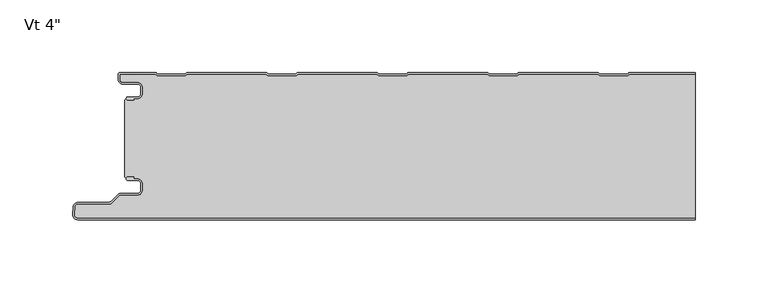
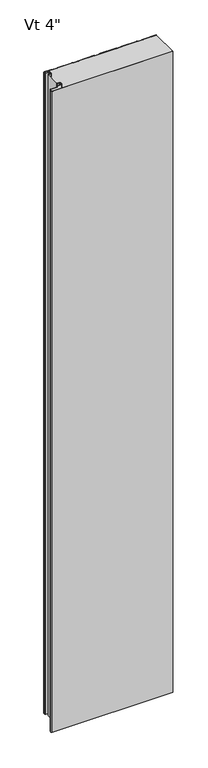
"""IFC4 building model written with IfcOpenShell, lengths in millimetres: plate geometry."""

from ifc_helpers import new_model, si_unit, point, frame, frame_2d, origin, origin_with_axes, place, context, project, spatial, polyline, circle_curve, trimmed, segment, composite_curve, outline, extrude, source, transform, mapped, element, save
from ifc_brep_helpers import plane_surface, cylinder_surface, revolved_surface, advanced_brep


def plate_2c1e21dd(model_context):
    return source(origin(), model_context, "Body", "SolidModel", [
        advanced_brep(
        [(-194.5686911, -17.001516, 2400.0), (-195.5686884, -18.0015192, 2400.0), (-194.5686911, -19.0015105, 2400.0), (-190.5684875, -19.0015105, 2400.0), (-190.5684875, -18.001516, 2400.0), (-187.8762777, -18.001516, 2400.0), (-184.576282, -14.7015203, 2400.0), (-184.576282, -10.3015291, 2400.0), (-187.8762775, -7.0015336, 2400.0), (-198.2962564, -7.0015336, 2400.0), (-200.0662506, -5.2315394, 2400.0), (-200.0662506, -0.9999917, 2400.0), (-175.565974, -0.9999917, 2400.0), (-174.1803314, -2.2002307, 2400.0), (-154.805165, -2.2002307, 2400.0), (-153.4195321, -1.0, 2400.0), (-99.3661167, -0.9999999, 2400.0), (-97.9804838, -2.2002306, 2400.0), (-78.6053174, -2.2002306, 2400.0), (-77.2196845, -0.9999999, 2400.0), (-23.1662691, -0.9999998, 2400.0), (-21.7806362, -2.2002305, 2400.0), (-2.4054698, -2.2002304, 2400.0), (-1.0198369, -0.9999997, 2400.0), (53.0335785, -0.9999996, 2400.0), (54.4192114, -2.2002303, 2400.0), (73.7943778, -2.2002303, 2400.0), (75.1800107, -0.9999996, 2400.0), (129.2334261, -0.9999995, 2400.0), (130.619059, -2.2002302, 2400.0), (149.9942254, -2.2002302, 2400.0), (151.3798583, -0.9999995, 2400.0), (196.5999997, -0.9999994, 2400.0), (196.5999997, 6e-07, 2400.0), (151.5290095, 5e-07, 2400.0), (150.6123926, -0.341788, 2400.0), (149.6213449, -1.2002302, 2400.0), (130.9919395, -1.2002302, 2400.0), (130.0008918, -0.341788, 2400.0), (129.0842749, 5e-07, 2400.0), (75.3291619, 4e-07, 2400.0), (74.412545, -0.3417881, 2400.0), (73.4214973, -1.2002303, 2400.0), (54.7920919, -1.2002303, 2400.0), (53.8010442, -0.3417881, 2400.0), (52.8844273, 4e-07, 2400.0), (-0.8706857, 3e-07, 2400.0), (-1.7873026, -0.3417882, 2400.0), (-2.7783503, -1.2002304, 2400.0), (-21.4077557, -1.2002305, 2400.0), (-22.3988034, -0.3417883, 2400.0), (-23.3154203, 2e-07, 2400.0), (-77.0705333, 1e-07, 2400.0), (-77.9871502, -0.3417884, 2400.0), (-78.9781979, -1.2002306, 2400.0), (-97.6076033, -1.2002306, 2400.0), (-98.598651, -0.3417884, 2400.0), (-99.5152679, 1e-07, 2400.0), (-153.2703809, 0.0, 2400.0), (-154.1869978, -0.3417885, 2400.0), (-155.1780455, -1.2002307, 2400.0), (-173.8074509, -1.2002307, 2400.0), (-174.7984986, -0.3417885, 2400.0), (-175.7152068, 0.0, 2400.0), (-199.6662544, 8.3e-06, 2400.0), (-201.0662506, -1.3999879, 2400.0), (-201.0662506, -5.2315394, 2400.0), (-198.2962564, -8.0015336, 2400.0), (-187.8762775, -8.0015336, 2400.0), (-185.576282, -10.3015291, 2400.0), (-185.576282, -14.7015203, 2400.0), (-187.8762777, -17.001516, 2400.0), (-194.5686911, -17.001516, 0.0), (-187.8762777, -17.001516, 0.0), (-185.576282, -14.7015203, 0.0), (-185.576282, -10.3015291, 0.0), (-187.8762775, -8.0015336, 0.0), (-198.2962564, -8.0015336, 0.0), (-201.0662506, -5.2315394, 0.0), (-201.0662506, -1.3999879, 0.0), (-199.6662544, 8.3e-06, 0.0), (-175.7151155, 8.3e-06, 0.0), (-174.7984986, -0.3417885, 0.0), (-173.8074509, -1.2002307, 0.0), (-155.1780455, -1.2002307, 0.0), (-154.1869978, -0.3417885, 0.0), (-153.2703809, 0.0, 0.0), (-99.5152679, 1e-07, 0.0), (-98.598651, -0.3417884, 0.0), (-97.6076033, -1.2002306, 0.0), (-78.9781979, -1.2002306, 0.0), (-77.9871502, -0.3417884, 0.0), (-77.0705333, 1e-07, 0.0), (-23.3154203, 2e-07, 0.0), (-22.3988034, -0.3417883, 0.0), (-21.4077557, -1.2002305, 0.0), (-2.7783503, -1.2002304, 0.0), (-1.7873026, -0.3417882, 0.0), (-0.8706857, 3e-07, 0.0), (52.8844273, 4e-07, 0.0), (53.8010442, -0.3417881, 0.0), (54.7920919, -1.2002303, 0.0), (73.4214973, -1.2002303, 0.0), (74.412545, -0.3417881, 0.0), (75.3291619, 4e-07, 0.0), (129.0842749, 5e-07, 0.0), (130.0008918, -0.341788, 0.0), (130.9919395, -1.2002302, 0.0), (149.6213449, -1.2002302, 0.0), (150.6123926, -0.341788, 0.0), (151.5290095, 5e-07, 0.0), (196.5999997, 6e-07, 0.0), (196.5999997, -0.9999994, 0.0), (151.3798583, -0.9999995, 0.0), (149.9942254, -2.2002302, 0.0), (130.619059, -2.2002302, 0.0), (129.2334261, -0.9999995, 0.0), (75.1800107, -0.9999996, 0.0), (73.7943778, -2.2002303, 0.0), (54.4192114, -2.2002303, 0.0), (53.0335785, -0.9999996, 0.0), (-1.0198369, -0.9999997, 0.0), (-2.4054698, -2.2002304, 0.0), (-21.7806362, -2.2002305, 0.0), (-23.1662691, -0.9999998, 0.0), (-77.2196845, -0.9999999, 0.0), (-78.6053174, -2.2002306, 0.0), (-97.9804838, -2.2002306, 0.0), (-99.3661167, -0.9999999, 0.0), (-153.4195321, -1.0, 0.0), (-154.805165, -2.2002307, 0.0), (-174.1803314, -2.2002307, 0.0), (-175.565974, -0.9999917, 0.0), (-200.0662506, -0.9999917, 0.0), (-200.0662506, -5.2315394, 0.0), (-198.2962564, -7.0015336, 0.0), (-187.8762775, -7.0015336, 0.0), (-184.576282, -10.3015291, 0.0), (-184.576282, -14.7015203, 0.0), (-187.8762777, -18.001516, 0.0), (-190.5684875, -18.001516, 0.0), (-190.5684875, -19.0015105, 0.0), (-194.5686911, -19.0015105, 0.0), (-195.5686883, -18.0015193, 0.0)],
        [
            (0, 1, circle_curve(frame((-194.5686911, -18.0015133, 2400.0), z_axis=(0.0, 0.0, 1.0), x_axis=(1.0, 1.7886125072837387e-09, 0.0)), 0.9999973)),
            (1, 2, circle_curve(frame((-194.5686911, -18.0015133, 2400.0), z_axis=(0.0, 0.0, 1.0), x_axis=(1.0, 1.7886125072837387e-09, 0.0)), 0.9999972)),
            (2, 3),
            (3, 4),
            (4, 5),
            (5, 6, circle_curve(frame((-187.8762777, -14.7015203, 2400.0), z_axis=(0.0, 0.0, 1.0), x_axis=(1.0, 1.7886125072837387e-09, 0.0)), 3.2999957)),
            (6, 7),
            (7, 8, circle_curve(frame((-187.8762775, -10.3015291, 2400.0), z_axis=(0.0, 0.0, 1.0), x_axis=(1.0, 1.7886125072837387e-09, 0.0)), 3.2999955)),
            (8, 9),
            (9, 10, circle_curve(frame((-198.2962564, -5.2315394, 2400.0), z_axis=(0.0, 0.0, -1.0), x_axis=(1.0, 1.7886125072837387e-09, 0.0)), 1.7699942)),
            (10, 11),
            (11, 12),
            (12, 13),
            (13, 14),
            (14, 15),
            (15, 16),
            (16, 17),
            (17, 18),
            (18, 19),
            (19, 20),
            (20, 21),
            (21, 22),
            (22, 23),
            (23, 24),
            (24, 25),
            (25, 26),
            (26, 27),
            (27, 28),
            (28, 29),
            (29, 30),
            (30, 31),
            (31, 32),
            (32, 33),
            (33, 34),
            (34, 35, circle_curve(frame((151.5290095, -1.3999967, 2400.0), z_axis=(0.0, 0.0, 1.0), x_axis=(1.0, 1.7886125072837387e-09, 0.0)), 1.3999972)),
            (35, 36),
            (36, 37),
            (37, 38),
            (38, 39, circle_curve(frame((129.084275, -1.3999967, 2400.0), z_axis=(0.0, 0.0, 1.0), x_axis=(1.0, 1.7886125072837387e-09, 0.0)), 1.3999972)),
            (39, 40),
            (40, 41, circle_curve(frame((75.3291619, -1.3999968, 2400.0), z_axis=(0.0, 0.0, 1.0), x_axis=(1.0, 1.7886125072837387e-09, 0.0)), 1.3999972)),
            (41, 42),
            (42, 43),
            (43, 44),
            (44, 45, circle_curve(frame((52.8844274, -1.3999968, 2400.0), z_axis=(0.0, 0.0, 1.0), x_axis=(1.0, 1.7886125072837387e-09, 0.0)), 1.3999972)),
            (45, 46),
            (46, 47, circle_curve(frame((-0.8706857, -1.3999969, 2400.0), z_axis=(0.0, 0.0, 1.0), x_axis=(1.0, 1.7886125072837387e-09, 0.0)), 1.3999972)),
            (47, 48),
            (48, 49),
            (49, 50),
            (50, 51, circle_curve(frame((-23.3154202, -1.399997, 2400.0), z_axis=(0.0, 0.0, 1.0), x_axis=(1.0, 1.7886125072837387e-09, 0.0)), 1.3999972)),
            (51, 52),
            (52, 53, circle_curve(frame((-77.0705333, -1.3999971, 2400.0), z_axis=(0.0, 0.0, 1.0), x_axis=(1.0, 1.7886125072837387e-09, 0.0)), 1.3999972)),
            (53, 54),
            (54, 55),
            (55, 56),
            (56, 57, circle_curve(frame((-99.5152678, -1.3999971, 2400.0), z_axis=(0.0, 0.0, 1.0), x_axis=(1.0, 1.7886125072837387e-09, 0.0)), 1.3999972)),
            (57, 58),
            (58, 59, circle_curve(frame((-153.2703809, -1.3999972, 2400.0), z_axis=(0.0, 0.0, 1.0), x_axis=(1.0, 1.7886125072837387e-09, 0.0)), 1.3999972)),
            (59, 60),
            (60, 61),
            (61, 62),
            (62, 63, circle_curve(frame((-175.7151154, -1.3999972, 2400.0), z_axis=(0.0, 0.0, 1.0), x_axis=(1.0, 1.7886125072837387e-09, 0.0)), 1.3999972)),
            (63, 64),
            (64, 65, circle_curve(frame((-199.6662544, -1.3999879, 2400.0), z_axis=(0.0, 0.0, 1.0), x_axis=(1.0, 1.7886125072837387e-09, 0.0)), 1.3999962)),
            (65, 66),
            (66, 67, circle_curve(frame((-198.2962564, -5.2315394, 2400.0), z_axis=(0.0, 0.0, 1.0), x_axis=(1.0, 1.7886125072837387e-09, 0.0)), 2.7699942)),
            (67, 68),
            (68, 69, circle_curve(frame((-187.8762775, -10.3015291, 2400.0), z_axis=(0.0, 0.0, -1.0), x_axis=(1.0, 1.7886125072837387e-09, 0.0)), 2.2999955)),
            (69, 70),
            (70, 71, circle_curve(frame((-187.8762777, -14.7015203, 2400.0), z_axis=(0.0, 0.0, -1.0), x_axis=(1.0, 1.7886125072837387e-09, 0.0)), 2.2999957)),
            (71, 0),
            (72, 73),
            (73, 74, circle_curve(frame((-187.8762777, -14.7015203, 0.0), z_axis=(0.0, 0.0, 1.0), x_axis=(1.0, 1.7886125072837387e-09, 0.0)), 2.2999957)),
            (74, 75),
            (75, 76, circle_curve(frame((-187.8762775, -10.3015291, 0.0), z_axis=(0.0, 0.0, 1.0), x_axis=(1.0, 1.7886125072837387e-09, 0.0)), 2.2999955)),
            (76, 77),
            (77, 78, circle_curve(frame((-198.2962564, -5.2315394, 0.0), z_axis=(0.0, 0.0, -1.0), x_axis=(1.0, 1.7886125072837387e-09, 0.0)), 2.7699942)),
            (78, 79),
            (79, 80, circle_curve(frame((-199.6662544, -1.3999879, 0.0), z_axis=(0.0, 0.0, -1.0), x_axis=(1.0, 1.7886125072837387e-09, 0.0)), 1.3999962)),
            (80, 81),
            (81, 82, circle_curve(frame((-175.7151154, -1.3999972, 0.0), z_axis=(0.0, 0.0, -1.0), x_axis=(1.0, 1.7886125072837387e-09, 0.0)), 1.3999972)),
            (82, 83),
            (83, 84),
            (84, 85),
            (85, 86, circle_curve(frame((-153.2703809, -1.3999972, 0.0), z_axis=(0.0, 0.0, -1.0), x_axis=(1.0, 1.7886125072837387e-09, 0.0)), 1.3999972)),
            (86, 87),
            (87, 88, circle_curve(frame((-99.5152678, -1.3999971, 0.0), z_axis=(0.0, 0.0, -1.0), x_axis=(1.0, 1.7886125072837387e-09, 0.0)), 1.3999972)),
            (88, 89),
            (89, 90),
            (90, 91),
            (91, 92, circle_curve(frame((-77.0705333, -1.3999971, 0.0), z_axis=(0.0, 0.0, -1.0), x_axis=(1.0, 1.7886125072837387e-09, 0.0)), 1.3999972)),
            (92, 93),
            (93, 94, circle_curve(frame((-23.3154202, -1.399997, 0.0), z_axis=(0.0, 0.0, -1.0), x_axis=(1.0, 1.7886125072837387e-09, 0.0)), 1.3999972)),
            (94, 95),
            (95, 96),
            (96, 97),
            (97, 98, circle_curve(frame((-0.8706857, -1.3999969, 0.0), z_axis=(0.0, 0.0, -1.0), x_axis=(1.0, 1.7886125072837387e-09, 0.0)), 1.3999972)),
            (98, 99),
            (99, 100, circle_curve(frame((52.8844274, -1.3999968, 0.0), z_axis=(0.0, 0.0, -1.0), x_axis=(1.0, 1.7886125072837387e-09, 0.0)), 1.3999972)),
            (100, 101),
            (101, 102),
            (102, 103),
            (103, 104, circle_curve(frame((75.3291619, -1.3999968, 0.0), z_axis=(0.0, 0.0, -1.0), x_axis=(1.0, 1.7886125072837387e-09, 0.0)), 1.3999972)),
            (104, 105),
            (105, 106, circle_curve(frame((129.084275, -1.3999967, 0.0), z_axis=(0.0, 0.0, -1.0), x_axis=(1.0, 1.7886125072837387e-09, 0.0)), 1.3999972)),
            (106, 107),
            (107, 108),
            (108, 109),
            (109, 110, circle_curve(frame((151.5290095, -1.3999967, 0.0), z_axis=(0.0, 0.0, -1.0), x_axis=(1.0, 1.7886125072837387e-09, 0.0)), 1.3999972)),
            (110, 111),
            (111, 112),
            (112, 113),
            (113, 114),
            (114, 115),
            (115, 116),
            (116, 117),
            (117, 118),
            (118, 119),
            (119, 120),
            (120, 121),
            (121, 122),
            (122, 123),
            (123, 124),
            (124, 125),
            (125, 126),
            (126, 127),
            (127, 128),
            (128, 129),
            (129, 130),
            (130, 131),
            (131, 132),
            (132, 133),
            (133, 134),
            (134, 135, circle_curve(frame((-198.2962564, -5.2315394, 0.0), z_axis=(0.0, 0.0, 1.0), x_axis=(1.0, 1.7886125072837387e-09, 0.0)), 1.7699942)),
            (135, 136),
            (136, 137, circle_curve(frame((-187.8762775, -10.3015291, 0.0), z_axis=(0.0, 0.0, -1.0), x_axis=(1.0, 1.7886125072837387e-09, 0.0)), 3.2999955)),
            (137, 138),
            (138, 139, circle_curve(frame((-187.8762777, -14.7015203, 0.0), z_axis=(0.0, 0.0, -1.0), x_axis=(1.0, 1.7886125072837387e-09, 0.0)), 3.2999957)),
            (139, 140),
            (140, 141),
            (141, 142),
            (142, 143, circle_curve(frame((-194.5686911, -18.0015133, 0.0), z_axis=(0.0, 0.0, -1.0), x_axis=(1.0, 1.7886125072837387e-09, 0.0)), 0.9999972)),
            (143, 72, circle_curve(frame((-194.5686911, -18.0015133, 0.0), z_axis=(0.0, 0.0, -1.0), x_axis=(1.0, 1.7886125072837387e-09, 0.0)), 0.9999973)),
            (32, 112),
            (111, 33),
            (71, 73),
            (72, 0),
            (70, 74),
            (69, 75),
            (68, 76),
            (67, 77),
            (66, 78),
            (65, 79),
            (64, 80),
            (63, 81),
            (62, 82),
            (61, 83),
            (60, 84),
            (59, 85),
            (58, 86),
            (57, 87),
            (56, 88),
            (55, 89),
            (54, 90),
            (53, 91),
            (52, 92),
            (51, 93),
            (50, 94),
            (49, 95),
            (48, 96),
            (47, 97),
            (46, 98),
            (45, 99),
            (44, 100),
            (43, 101),
            (42, 102),
            (41, 103),
            (40, 104),
            (39, 105),
            (38, 106),
            (37, 107),
            (36, 108),
            (35, 109),
            (34, 110),
            (31, 113),
            (30, 114),
            (29, 115),
            (28, 116),
            (27, 117),
            (26, 118),
            (25, 119),
            (24, 120),
            (23, 121),
            (22, 122),
            (21, 123),
            (20, 124),
            (19, 125),
            (18, 126),
            (17, 127),
            (16, 128),
            (15, 129),
            (14, 130),
            (13, 131),
            (12, 132),
            (11, 133),
            (10, 134),
            (9, 135),
            (8, 136),
            (7, 137),
            (6, 138),
            (5, 139),
            (4, 140),
            (3, 141),
            (2, 142),
            (1, 143),
        ],
        [
            plane_surface(frame((336.8, 9e-07, 2400.0), z_axis=(0.0, 0.0, 1.0), x_axis=(-1.7886125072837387e-09, 1.0, 0.0))),
            plane_surface(frame((336.8, 9e-07, 0.0), z_axis=(0.0, 0.0, -1.0), x_axis=(-1.7886125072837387e-09, 1.0, 0.0))),
            plane_surface(frame((196.5999999, -111.5999994, 2400.0), z_axis=(1.0, 1.7886125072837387e-09, 0.0), x_axis=(0.0, 0.0, -1.0))),
            plane_surface(frame((-194.5686911, -17.001516, 2400.0), z_axis=(-1.7886125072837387e-09, 1.0, 0.0), x_axis=(0.0, 0.0, -1.0))),
            revolved_surface(polyline([(-185.576282, -14.7015202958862, 0.0), (-185.576282, -14.7015202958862, 2400.0)]), (-187.8762777, -14.7015203, 2400.0), (0.0, 0.0, -1.0)),
            plane_surface(frame((-185.576282, -14.7015203, 2400.0), z_axis=(-1.0, -1.7886125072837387e-09, 0.0), x_axis=(0.0, 0.0, -1.0))),
            revolved_surface(polyline([(-185.576282, -10.301529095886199, 0.0), (-185.576282, -10.301529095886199, 2400.0)]), (-187.8762775, -10.3015291, 2400.0), (0.0, 0.0, -1.0)),
            plane_surface(frame((-187.8762775, -8.0015336, 2400.0), z_axis=(1.7886125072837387e-09, -1.0, 0.0), x_axis=(0.0, 0.0, -1.0))),
            cylinder_surface(frame((-198.2962564, -5.2315394, 2400.0), z_axis=(0.0, 0.0, 1.0), x_axis=(1.0, 1.7886125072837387e-09, 0.0)), 2.7699942),
            plane_surface(frame((-201.0662506, -5.2315394, 2400.0), z_axis=(-1.0, -1.7886125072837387e-09, 0.0), x_axis=(0.0, 0.0, -1.0))),
            cylinder_surface(frame((-199.6662544, -1.3999879, 2400.0), z_axis=(0.0, 0.0, 1.0), x_axis=(1.0, 1.7886125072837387e-09, 0.0)), 1.3999962),
            plane_surface(frame((-199.6662544, 8.3e-06, 2400.0), z_axis=(-1.7886125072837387e-09, 1.0, 0.0), x_axis=(0.0, 0.0, -1.0))),
            cylinder_surface(frame((-175.7151154, -1.3999972, 2400.0), z_axis=(0.0, 0.0, 1.0), x_axis=(1.0, 1.7886125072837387e-09, 0.0)), 1.3999972),
            plane_surface(frame((-174.7984986, -0.3417885, 2400.0), z_axis=(0.6547276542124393, 0.755864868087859, 0.0), x_axis=(0.0, 0.0, -1.0))),
            plane_surface(frame((-164.4927482, -1.2002307, 2400.0), z_axis=(-1.7886125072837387e-09, 1.0, 0.0), x_axis=(0.0, 0.0, -1.0))),
            plane_surface(frame((-155.1780455, -1.2002307, 2400.0), z_axis=(-0.6547276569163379, 0.755864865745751, 0.0), x_axis=(0.0, 0.0, -1.0))),
            cylinder_surface(frame((-153.2703809, -1.3999972, 2400.0), z_axis=(0.0, 0.0, 1.0), x_axis=(1.0, 1.7886125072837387e-09, 0.0)), 1.3999972),
            plane_surface(frame((-153.2703809, 0.0, 2400.0), z_axis=(-1.7886074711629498e-09, 1.0, 0.0), x_axis=(0.0, 0.0, -1.0))),
            cylinder_surface(frame((-99.5152678, -1.3999971, 2400.0), z_axis=(0.0, 0.0, 1.0), x_axis=(1.0, 1.7886125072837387e-09, 0.0)), 1.3999972),
            plane_surface(frame((-98.598651, -0.3417884, 2400.0), z_axis=(0.6547276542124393, 0.755864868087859, 0.0), x_axis=(0.0, 0.0, -1.0))),
            plane_surface(frame((-88.2929006, -1.2002306, 2400.0), z_axis=(-1.7886125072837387e-09, 1.0, 0.0), x_axis=(0.0, 0.0, -1.0))),
            plane_surface(frame((-78.9781979, -1.2002306, 2400.0), z_axis=(-0.6547276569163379, 0.755864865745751, 0.0), x_axis=(0.0, 0.0, -1.0))),
            cylinder_surface(frame((-77.0705333, -1.3999971, 2400.0), z_axis=(0.0, 0.0, 1.0), x_axis=(1.0, 1.7886125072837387e-09, 0.0)), 1.3999972),
            plane_surface(frame((-77.0705333, 1e-07, 2400.0), z_axis=(-1.7886074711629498e-09, 1.0, 0.0), x_axis=(0.0, 0.0, -1.0))),
            cylinder_surface(frame((-23.3154202, -1.399997, 2400.0), z_axis=(0.0, 0.0, 1.0), x_axis=(1.0, 1.7886125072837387e-09, 0.0)), 1.3999972),
            plane_surface(frame((-22.3988034, -0.3417883, 2400.0), z_axis=(0.6547276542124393, 0.755864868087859, 0.0), x_axis=(0.0, 0.0, -1.0))),
            plane_surface(frame((-12.093053, -1.2002305, 2400.0), z_axis=(-1.7886125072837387e-09, 1.0, 0.0), x_axis=(0.0, 0.0, -1.0))),
            plane_surface(frame((-2.7783503, -1.2002304, 2400.0), z_axis=(-0.6547276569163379, 0.755864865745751, 0.0), x_axis=(0.0, 0.0, -1.0))),
            cylinder_surface(frame((-0.8706857, -1.3999969, 2400.0), z_axis=(0.0, 0.0, 1.0), x_axis=(1.0, 1.7886125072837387e-09, 0.0)), 1.3999972),
            plane_surface(frame((-0.8706857, 3e-07, 2400.0), z_axis=(-1.7886074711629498e-09, 1.0, 0.0), x_axis=(0.0, 0.0, -1.0))),
            cylinder_surface(frame((52.8844274, -1.3999968, 2400.0), z_axis=(0.0, 0.0, 1.0), x_axis=(1.0, 1.7886125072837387e-09, 0.0)), 1.3999972),
            plane_surface(frame((53.8010442, -0.3417881, 2400.0), z_axis=(0.6547276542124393, 0.755864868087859, 0.0), x_axis=(0.0, 0.0, -1.0))),
            plane_surface(frame((64.1067946, -1.2002303, 2400.0), z_axis=(-1.7886125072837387e-09, 1.0, 0.0), x_axis=(0.0, 0.0, -1.0))),
            plane_surface(frame((73.4214973, -1.2002303, 2400.0), z_axis=(-0.6547276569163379, 0.755864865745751, 0.0), x_axis=(0.0, 0.0, -1.0))),
            cylinder_surface(frame((75.3291619, -1.3999968, 2400.0), z_axis=(0.0, 0.0, 1.0), x_axis=(1.0, 1.7886125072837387e-09, 0.0)), 1.3999972),
            plane_surface(frame((75.3291619, 4e-07, 2400.0), z_axis=(-1.7886074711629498e-09, 1.0, 0.0), x_axis=(0.0, 0.0, -1.0))),
            cylinder_surface(frame((129.084275, -1.3999967, 2400.0), z_axis=(0.0, 0.0, 1.0), x_axis=(1.0, 1.7886125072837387e-09, 0.0)), 1.3999972),
            plane_surface(frame((130.0008918, -0.341788, 2400.0), z_axis=(0.6547276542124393, 0.755864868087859, 0.0), x_axis=(0.0, 0.0, -1.0))),
            plane_surface(frame((140.3066422, -1.2002302, 2400.0), z_axis=(-1.7886125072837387e-09, 1.0, 0.0), x_axis=(0.0, 0.0, -1.0))),
            plane_surface(frame((149.6213449, -1.2002302, 2400.0), z_axis=(-0.6547276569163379, 0.755864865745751, 0.0), x_axis=(0.0, 0.0, -1.0))),
            cylinder_surface(frame((151.5290095, -1.3999967, 2400.0), z_axis=(0.0, 0.0, 1.0), x_axis=(1.0, 1.7886125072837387e-09, 0.0)), 1.3999972),
            plane_surface(frame((151.5290095, 5e-07, 2400.0), z_axis=(-1.7886074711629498e-09, 1.0, 0.0), x_axis=(0.0, 0.0, -1.0))),
            plane_surface(frame((205.4332737, -0.9999994, 2400.0), z_axis=(1.7886074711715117e-09, -1.0, 0.0), x_axis=(0.0, 0.0, -1.0))),
            plane_surface(frame((151.3798583, -0.9999995, 2400.0), z_axis=(0.6547276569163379, -0.755864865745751, 0.0), x_axis=(0.0, 0.0, -1.0))),
            plane_surface(frame((149.9942254, -2.2002302, 2400.0), z_axis=(1.7886125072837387e-09, -1.0, 0.0), x_axis=(0.0, 0.0, -1.0))),
            plane_surface(frame((130.619059, -2.2002302, 2400.0), z_axis=(-0.6547276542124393, -0.755864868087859, 0.0), x_axis=(0.0, 0.0, -1.0))),
            plane_surface(frame((129.2334261, -0.9999995, 2400.0), z_axis=(1.7886074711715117e-09, -1.0, 0.0), x_axis=(0.0, 0.0, -1.0))),
            plane_surface(frame((75.1800107, -0.9999996, 2400.0), z_axis=(0.6547276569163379, -0.755864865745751, 0.0), x_axis=(0.0, 0.0, -1.0))),
            plane_surface(frame((73.7943778, -2.2002303, 2400.0), z_axis=(1.7886125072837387e-09, -1.0, 0.0), x_axis=(0.0, 0.0, -1.0))),
            plane_surface(frame((54.4192114, -2.2002303, 2400.0), z_axis=(-0.6547276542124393, -0.755864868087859, 0.0), x_axis=(0.0, 0.0, -1.0))),
            plane_surface(frame((53.0335785, -0.9999996, 2400.0), z_axis=(1.7886074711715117e-09, -1.0, 0.0), x_axis=(0.0, 0.0, -1.0))),
            plane_surface(frame((-1.0198369, -0.9999997, 2400.0), z_axis=(0.6547276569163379, -0.755864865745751, 0.0), x_axis=(0.0, 0.0, -1.0))),
            plane_surface(frame((-2.4054698, -2.2002304, 2400.0), z_axis=(1.7886125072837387e-09, -1.0, 0.0), x_axis=(0.0, 0.0, -1.0))),
            plane_surface(frame((-21.7806362, -2.2002305, 2400.0), z_axis=(-0.6547276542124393, -0.755864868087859, 0.0), x_axis=(0.0, 0.0, -1.0))),
            plane_surface(frame((-23.1662691, -0.9999998, 2400.0), z_axis=(1.7886074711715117e-09, -1.0, 0.0), x_axis=(0.0, 0.0, -1.0))),
            plane_surface(frame((-77.2196845, -0.9999999, 2400.0), z_axis=(0.6547276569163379, -0.755864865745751, 0.0), x_axis=(0.0, 0.0, -1.0))),
            plane_surface(frame((-78.6053174, -2.2002306, 2400.0), z_axis=(1.7886125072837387e-09, -1.0, 0.0), x_axis=(0.0, 0.0, -1.0))),
            plane_surface(frame((-97.9804838, -2.2002306, 2400.0), z_axis=(-0.6547276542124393, -0.755864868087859, 0.0), x_axis=(0.0, 0.0, -1.0))),
            plane_surface(frame((-99.3661167, -0.9999999, 2400.0), z_axis=(1.7886074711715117e-09, -1.0, 0.0), x_axis=(0.0, 0.0, -1.0))),
            plane_surface(frame((-153.4195321, -1.0, 2400.0), z_axis=(0.6547276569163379, -0.755864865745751, 0.0), x_axis=(0.0, 0.0, -1.0))),
            plane_surface(frame((-154.805165, -2.2002307, 2400.0), z_axis=(1.7886125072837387e-09, -1.0, 0.0), x_axis=(0.0, 0.0, -1.0))),
            plane_surface(frame((-174.1803314, -2.2002307, 2400.0), z_axis=(-0.6547276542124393, -0.755864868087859, 0.0), x_axis=(0.0, 0.0, -1.0))),
            plane_surface(frame((-175.565974, -0.9999917, 2400.0), z_axis=(1.7886125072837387e-09, -1.0, 0.0), x_axis=(0.0, 0.0, -1.0))),
            plane_surface(frame((-200.0662506, -0.9999917, 2400.0), z_axis=(1.0, 1.7886125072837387e-09, 0.0), x_axis=(0.0, 0.0, -1.0))),
            revolved_surface(polyline([(-196.5262622, -5.231539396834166, 0.0), (-196.5262622, -5.231539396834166, 2400.0)]), (-198.2962564, -5.2315394, 2400.0), (0.0, 0.0, -1.0)),
            plane_surface(frame((-198.2962564, -7.0015336, 2400.0), z_axis=(-1.7886125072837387e-09, 1.0, 0.0), x_axis=(0.0, 0.0, -1.0))),
            cylinder_surface(frame((-187.8762775, -10.3015291, 2400.0), z_axis=(0.0, 0.0, 1.0), x_axis=(1.0, 1.7886125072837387e-09, 0.0)), 3.2999955),
            plane_surface(frame((-184.576282, -10.3015291, 2400.0), z_axis=(1.0, 1.7886125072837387e-09, 0.0), x_axis=(0.0, 0.0, -1.0))),
            cylinder_surface(frame((-187.8762777, -14.7015203, 2400.0), z_axis=(0.0, 0.0, 1.0), x_axis=(1.0, 1.7886125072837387e-09, 0.0)), 3.2999957),
            plane_surface(frame((-187.8762777, -18.001516, 2400.0), z_axis=(1.7886125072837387e-09, -1.0, 0.0), x_axis=(0.0, 0.0, -1.0))),
            plane_surface(frame((-190.5684875, -18.001516, 2400.0), z_axis=(1.0, 1.7886125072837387e-09, 0.0), x_axis=(0.0, 0.0, -1.0))),
            plane_surface(frame((-190.5684875, -19.0015105, 2400.0), z_axis=(1.7886125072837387e-09, -1.0, 0.0), x_axis=(0.0, 0.0, -1.0))),
            cylinder_surface(frame((-194.5686911, -18.0015133, 2400.0), z_axis=(0.0, 0.0, 1.0), x_axis=(1.0, 1.7886125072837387e-09, 0.0)), 0.9999972),
            cylinder_surface(frame((-194.5686911, -18.0015133, 2400.0), z_axis=(0.0, 0.0, 1.0), x_axis=(1.0, 1.7886125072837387e-09, 0.0)), 0.9999973),
        ],
        [
            (0, [[1, 2, 3, 4, 5, 6, 7, 8, 9, 10, 11, 12, 13, 14, 15, 16, 17, 18, 19, 20, 21, 22, 23, 24, 25, 26, 27, 28, 29, 30, 31, 32, 33, 34, 35, 36, 37, 38, 39, 40, 41, 42, 43, 44, 45, 46, 47, 48, 49, 50, 51, 52, 53, 54, 55, 56, 57, 58, 59, 60, 61, 62, 63, 64, 65, 66, 67, 68, 69, 70, 71, 72]]),
            (1, [[73, 74, 75, 76, 77, 78, 79, 80, 81, 82, 83, 84, 85, 86, 87, 88, 89, 90, 91, 92, 93, 94, 95, 96, 97, 98, 99, 100, 101, 102, 103, 104, 105, 106, 107, 108, 109, 110, 111, 112, 113, 114, 115, 116, 117, 118, 119, 120, 121, 122, 123, 124, 125, 126, 127, 128, 129, 130, 131, 132, 133, 134, 135, 136, 137, 138, 139, 140, 141, 142, 143, 144]]),
            (2, [[145, -112, 146, -33]]),
            (3, [[147, -73, 148, -72]]),
            (4, [[149, -74, -147, -71]]),
            (5, [[150, -75, -149, -70]]),
            (6, [[151, -76, -150, -69]]),
            (7, [[152, -77, -151, -68]]),
            (8, [[153, -78, -152, -67]]),
            (9, [[154, -79, -153, -66]]),
            (10, [[155, -80, -154, -65]]),
            (11, [[156, -81, -155, -64]]),
            (12, [[157, -82, -156, -63]]),
            (13, [[158, -83, -157, -62]]),
            (14, [[159, -84, -158, -61]]),
            (15, [[160, -85, -159, -60]]),
            (16, [[161, -86, -160, -59]]),
            (17, [[162, -87, -161, -58]]),
            (18, [[163, -88, -162, -57]]),
            (19, [[164, -89, -163, -56]]),
            (20, [[165, -90, -164, -55]]),
            (21, [[166, -91, -165, -54]]),
            (22, [[167, -92, -166, -53]]),
            (23, [[168, -93, -167, -52]]),
            (24, [[169, -94, -168, -51]]),
            (25, [[170, -95, -169, -50]]),
            (26, [[171, -96, -170, -49]]),
            (27, [[172, -97, -171, -48]]),
            (28, [[173, -98, -172, -47]]),
            (29, [[174, -99, -173, -46]]),
            (30, [[175, -100, -174, -45]]),
            (31, [[176, -101, -175, -44]]),
            (32, [[177, -102, -176, -43]]),
            (33, [[178, -103, -177, -42]]),
            (34, [[179, -104, -178, -41]]),
            (35, [[180, -105, -179, -40]]),
            (36, [[181, -106, -180, -39]]),
            (37, [[182, -107, -181, -38]]),
            (38, [[183, -108, -182, -37]]),
            (39, [[184, -109, -183, -36]]),
            (40, [[185, -110, -184, -35]]),
            (41, [[-34, -146, -111, -185]]),
            (42, [[-113, -145, -32, 186]]),
            (43, [[187, -114, -186, -31]]),
            (44, [[188, -115, -187, -30]]),
            (45, [[189, -116, -188, -29]]),
            (46, [[190, -117, -189, -28]]),
            (47, [[191, -118, -190, -27]]),
            (48, [[192, -119, -191, -26]]),
            (49, [[193, -120, -192, -25]]),
            (50, [[194, -121, -193, -24]]),
            (51, [[195, -122, -194, -23]]),
            (52, [[196, -123, -195, -22]]),
            (53, [[197, -124, -196, -21]]),
            (54, [[198, -125, -197, -20]]),
            (55, [[199, -126, -198, -19]]),
            (56, [[200, -127, -199, -18]]),
            (57, [[201, -128, -200, -17]]),
            (58, [[202, -129, -201, -16]]),
            (59, [[203, -130, -202, -15]]),
            (60, [[204, -131, -203, -14]]),
            (61, [[205, -132, -204, -13]]),
            (62, [[206, -133, -205, -12]]),
            (63, [[207, -134, -206, -11]]),
            (64, [[208, -135, -207, -10]]),
            (65, [[209, -136, -208, -9]]),
            (66, [[210, -137, -209, -8]]),
            (67, [[211, -138, -210, -7]]),
            (68, [[212, -139, -211, -6]]),
            (69, [[213, -140, -212, -5]]),
            (70, [[214, -141, -213, -4]]),
            (71, [[215, -142, -214, -3]]),
            (72, [[216, -143, -215, -2]]),
            (73, [[-148, -144, -216, -1]]),
        ],
    ),
        extrude(outline(composite_curve([segment(polyline([(-232.6087618, -97.7184904), (-232.1690673, -92.6944438)]), True, "CONTINUOUS"), segment(trimmed(circle_curve(frame_2d((-228.519839, -93.3052449)), 3.6999926), [point((-232.1690673, -92.6944438))], [point((-228.519839, -89.6052523))], False, "CARTESIAN"), True, "CONTINUOUS"), segment(polyline([(-228.519839, -89.6052523), (-207.3773995, -89.6052523)]), True, "CONTINUOUS"), segment(trimmed(circle_curve(frame_2d((-207.3773995, -88.3052549)), 1.2999974), [point((-207.3773995, -89.6052523))], [point((-206.4581625, -89.2244919))], True, "CARTESIAN"), True, "CONTINUOUS"), segment(polyline([(-206.4581625, -89.2244919), (-201.6297451, -84.3960744)]), True, "CONTINUOUS"), segment(trimmed(circle_curve(frame_2d((-199.7205606, -86.3052589)), 2.6999946), [point((-201.6297451, -84.3960744))], [point((-199.7205606, -83.6052643))], False, "CARTESIAN"), True, "CONTINUOUS"), segment(polyline([(-199.7205606, -83.6052643), (-187.9096715, -83.6052643)]), True, "CONTINUOUS"), segment(trimmed(circle_curve(frame_2d((-187.9096715, -81.255269)), 2.3499953), [point((-187.9096715, -83.6052643))], [point((-185.5596762, -81.255269))], True, "CARTESIAN"), True, "CONTINUOUS"), segment(polyline([(-185.5596762, -81.255269), (-185.5596762, -76.8552778)]), True, "CONTINUOUS"), segment(trimmed(circle_curve(frame_2d((-187.9096715, -76.8552778)), 2.3499953), [point((-185.5596762, -76.8552778))], [point((-187.9096715, -74.5052825))], True, "CARTESIAN"), True, "CONTINUOUS"), segment(polyline([(-187.9096715, -74.5052825), (-194.4289777, -74.5052825)]), True, "CONTINUOUS"), segment(trimmed(circle_curve(frame_2d((-194.3686906, -73.3068002)), 1.1999976), [point((-194.4289777, -74.5052825))], [point((-195.5683, -73.2762783))], False, "CARTESIAN"), True, "CONTINUOUS"), segment(trimmed(circle_curve(frame_2d((-194.3686906, -73.3068002)), 1.1999976), [point((-195.5683, -73.2762783))], [point((-194.367176, -72.1068036))], False, "CARTESIAN"), True, "CONTINUOUS"), segment(polyline([(-194.367176, -72.1068036), (-190.6087826, -72.1068036), (-190.6087826, -73.5052825), (-187.9096715, -73.5052825)]), True, "CONTINUOUS"), segment(trimmed(circle_curve(frame_2d((-187.9096715, -76.8552778)), 3.3499953), [point((-187.9096715, -73.5052825))], [point((-184.5596762, -76.8552778))], False, "CARTESIAN"), True, "CONTINUOUS"), segment(polyline([(-184.5596762, -76.8552778), (-184.5596762, -81.255269)]), True, "CONTINUOUS"), segment(trimmed(circle_curve(frame_2d((-187.9096715, -81.255269)), 3.3499953), [point((-184.5596762, -81.255269))], [point((-187.9096715, -84.6052643))], False, "CARTESIAN"), True, "CONTINUOUS"), segment(polyline([(-187.9096715, -84.6052643), (-199.7205606, -84.6052643)]), True, "CONTINUOUS"), segment(trimmed(circle_curve(frame_2d((-199.7205606, -86.3052589)), 1.6999946), [point((-199.7205606, -84.6052643))], [point((-200.9226383, -85.1031812))], True, "CARTESIAN"), True, "CONTINUOUS"), segment(polyline([(-200.9226383, -85.1031812), (-206.4247094, -90.6052523), (-228.519839, -90.6052523)]), True, "CONTINUOUS"), segment(trimmed(circle_curve(frame_2d((-228.519839, -93.3052449)), 2.6999926), [point((-228.519839, -90.6052523))], [point((-231.1765707, -92.8238543))], True, "CARTESIAN"), True, "CONTINUOUS"), segment(polyline([(-231.1765707, -92.8238543), (-231.6125697, -97.8056752)]), True, "CONTINUOUS"), segment(trimmed(circle_curve(frame_2d((-229.0521174, -98.0297608)), 2.5702393), [point((-231.6125697, -97.8056752))], [point((-229.1094458, -100.5993607))], True, "CARTESIAN"), True, "CONTINUOUS"), segment(polyline([(-229.1094458, -100.5993607), (196.5999999, -100.5993599), (196.5999999, -101.5999994), (-229.0521174, -101.6000001)]), True, "CONTINUOUS"), segment(trimmed(circle_curve(frame_2d((-229.0521174, -98.0297608)), 3.5702393), [point((-229.0521174, -101.6000001))], [point((-232.6087618, -97.7184904))], False, "CARTESIAN"), True, "CONTINUOUS")], self_intersect=False)), origin_with_axes(), (0.0, 0.0, 1.0), 2400.0),
        advanced_brep(
        [(-195.5683, -73.2708751, 2400.0), (-194.367176, -72.1014003, 2400.0), (-190.6087826, -72.1014003, 2400.0), (-190.6087826, -73.4998792, 2400.0), (-187.9096715, -73.4998792, 2400.0), (-184.5596762, -76.8498745, 2400.0), (-184.5596762, -81.2498657, 2400.0), (-187.9096715, -84.599861, 2400.0), (-199.7205606, -84.599861, 2400.0), (-200.9226383, -85.0977779, 2400.0), (-206.4247094, -90.599849, 2400.0), (-228.519839, -90.5998491, 2400.0), (-231.1765707, -92.8184511, 2400.0), (-231.6125697, -97.8002719, 2400.0), (-229.0521174, -100.5945969, 2400.0), (196.5999999, -100.5999994, 2400.0), (196.5999997, -0.9999994, 2400.0), (151.3798584, -0.9999995, 2400.0), (149.9942254, -2.2002302, 2400.0), (130.6190591, -2.2002302, 2400.0), (129.2334261, -0.9999995, 2400.0), (75.1800108, -0.9999996, 2400.0), (73.7943778, -2.2002303, 2400.0), (54.4192115, -2.2002303, 2400.0), (53.0335785, -0.9999996, 2400.0), (-1.0198368, -0.9999997, 2400.0), (-2.4054698, -2.2002304, 2400.0), (-21.7806361, -2.2002305, 2400.0), (-23.1662691, -0.9999998, 2400.0), (-77.2196844, -0.9999999, 2400.0), (-78.6053174, -2.2002306, 2400.0), (-97.9804837, -2.2002306, 2400.0), (-99.3661167, -0.9999999, 2400.0), (-153.419532, -1.0, 2400.0), (-154.805165, -2.2002307, 2400.0), (-174.1803313, -2.2002307, 2400.0), (-175.5659739, -0.9999917, 2400.0), (-200.0662505, -0.9999917, 2400.0), (-200.0662505, -5.231539, 2400.0), (-198.2962563, -7.0015332, 2400.0), (-187.8762778, -7.0015332, 2400.0), (-184.5762819, -10.3015291, 2400.0), (-184.5762819, -14.7015203, 2400.0), (-187.8762776, -18.001516, 2400.0), (-190.5684874, -18.001516, 2400.0), (-190.5684874, -19.0015105, 2400.0), (-194.5686911, -19.0015105, 2400.0), (-195.5686883, -18.0015193, 2400.0), (-196.5999999, -19.0328309, 2400.0), (-196.5999998, -72.2391752, 2400.0), (-195.5683, -73.2708751, 0.0), (-196.5999998, -72.2391752, 0.0), (-196.5999999, -19.0328309, 0.0), (-195.5686883, -18.0015193, 0.0), (-194.5686911, -19.0015105, 0.0), (-190.5684874, -19.0015105, 0.0), (-190.5684874, -18.001516, 0.0), (-187.8762776, -18.001516, 0.0), (-184.5762819, -14.7015203, 0.0), (-184.5762819, -10.3015291, 0.0), (-187.8762778, -7.0015332, 0.0), (-198.2962563, -7.0015332, 0.0), (-200.0662505, -5.231539, 0.0), (-200.0662505, -0.9999917, 0.0), (-175.5659739, -0.9999917, 0.0), (-174.1803313, -2.2002307, 0.0), (-154.805165, -2.2002307, 0.0), (-153.419532, -1.0, 0.0), (-99.3661167, -0.9999999, 0.0), (-97.9804837, -2.2002306, 0.0), (-78.6053174, -2.2002306, 0.0), (-77.2196844, -0.9999999, 0.0), (-23.1662691, -0.9999998, 0.0), (-21.7806361, -2.2002305, 0.0), (-2.4054698, -2.2002304, 0.0), (-1.0198368, -0.9999997, 0.0), (53.0335785, -0.9999996, 0.0), (54.4192115, -2.2002303, 0.0), (73.7943778, -2.2002303, 0.0), (75.1800108, -0.9999996, 0.0), (129.2334261, -0.9999995, 0.0), (130.6190591, -2.2002302, 0.0), (149.9942254, -2.2002302, 0.0), (151.3798584, -0.9999995, 0.0), (196.5999997, -0.9999994, 0.0), (196.5999999, -100.5999994, 0.0), (-229.0521174, -100.6000001, 0.0), (-231.6125697, -97.8002719, 0.0), (-231.1765707, -92.8184511, 0.0), (-228.519839, -90.5998491, 0.0), (-206.4247094, -90.599849, 0.0), (-200.9226383, -85.0977779, 0.0), (-199.7205606, -84.599861, 0.0), (-187.9096715, -84.599861, 0.0), (-184.5596762, -81.2498657, 0.0), (-184.5596762, -76.8498745, 0.0), (-187.9096715, -73.4998792, 0.0), (-190.6087826, -73.4998792, 0.0), (-190.6087826, -72.1014003, 0.0), (-194.367176, -72.1014003, 0.0)],
        [
            (0, 1, circle_curve(frame((-194.3686906, -73.301397, 2400.0), z_axis=(0.0, 0.0, -1.0), x_axis=(-1.0, -1.788615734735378e-09, 0.0)), 1.1999976)),
            (1, 2),
            (2, 3),
            (3, 4),
            (4, 5, circle_curve(frame((-187.9096715, -76.8498745, 2400.0), z_axis=(0.0, 0.0, -1.0), x_axis=(-1.0, -1.788615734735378e-09, 0.0)), 3.3499953)),
            (5, 6),
            (6, 7, circle_curve(frame((-187.9096715, -81.2498657, 2400.0), z_axis=(0.0, 0.0, -1.0), x_axis=(-1.0, -1.788615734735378e-09, 0.0)), 3.3499953)),
            (7, 8),
            (8, 9, circle_curve(frame((-199.7205606, -86.2998556, 2400.0), z_axis=(0.0, 0.0, 1.0), x_axis=(-1.0, -1.788615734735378e-09, 0.0)), 1.6999946)),
            (9, 10),
            (10, 11),
            (11, 12, circle_curve(frame((-228.519839, -93.2998417, 2400.0), z_axis=(0.0, 0.0, 1.0), x_axis=(-1.0, -1.788615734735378e-09, 0.0)), 2.6999926)),
            (12, 13),
            (13, 14, circle_curve(frame((-229.0521174, -98.0243576, 2400.0), z_axis=(0.0, 0.0, 1.0), x_axis=(-1.0, -1.788615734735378e-09, 0.0)), 2.5702393)),
            (14, 15),
            (15, 16),
            (16, 17),
            (17, 18),
            (18, 19),
            (19, 20),
            (20, 21),
            (21, 22),
            (22, 23),
            (23, 24),
            (24, 25),
            (25, 26),
            (26, 27),
            (27, 28),
            (28, 29),
            (29, 30),
            (30, 31),
            (31, 32),
            (32, 33),
            (33, 34),
            (34, 35),
            (35, 36),
            (36, 37),
            (37, 38),
            (38, 39, circle_curve(frame((-198.2962563, -5.231539, 2400.0), z_axis=(0.0, 0.0, 1.0), x_axis=(-1.0, -1.788615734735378e-09, 0.0)), 1.7699942)),
            (39, 40),
            (40, 41, circle_curve(frame((-187.8762778, -10.3015291, 2400.0), z_axis=(0.0, 0.0, -1.0), x_axis=(-1.0, -1.788615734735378e-09, 0.0)), 3.2999959)),
            (41, 42),
            (42, 43, circle_curve(frame((-187.8762776, -14.7015203, 2400.0), z_axis=(0.0, 0.0, -1.0), x_axis=(-1.0, -1.788615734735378e-09, 0.0)), 3.2999957)),
            (43, 44),
            (44, 45),
            (45, 46),
            (46, 47, circle_curve(frame((-194.5686911, -18.0015133, 2400.0), z_axis=(0.0, 0.0, -1.0), x_axis=(-1.0, -1.788615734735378e-09, 0.0)), 0.9999972)),
            (47, 48),
            (48, 49),
            (49, 0),
            (50, 51),
            (51, 52),
            (52, 53),
            (53, 54, circle_curve(frame((-194.5686911, -18.0015133, 0.0), z_axis=(0.0, 0.0, 1.0), x_axis=(-1.0, -1.788615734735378e-09, 0.0)), 0.9999972)),
            (54, 55),
            (55, 56),
            (56, 57),
            (57, 58, circle_curve(frame((-187.8762776, -14.7015203, 0.0), z_axis=(0.0, 0.0, 1.0), x_axis=(-1.0, -1.788615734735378e-09, 0.0)), 3.2999957)),
            (58, 59),
            (59, 60, circle_curve(frame((-187.8762778, -10.3015291, 0.0), z_axis=(0.0, 0.0, 1.0), x_axis=(-1.0, -1.788615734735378e-09, 0.0)), 3.2999959)),
            (60, 61),
            (61, 62, circle_curve(frame((-198.2962563, -5.231539, 0.0), z_axis=(0.0, 0.0, -1.0), x_axis=(-1.0, -1.788615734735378e-09, 0.0)), 1.7699942)),
            (62, 63),
            (63, 64),
            (64, 65),
            (65, 66),
            (66, 67),
            (67, 68),
            (68, 69),
            (69, 70),
            (70, 71),
            (71, 72),
            (72, 73),
            (73, 74),
            (74, 75),
            (75, 76),
            (76, 77),
            (77, 78),
            (78, 79),
            (79, 80),
            (80, 81),
            (81, 82),
            (82, 83),
            (83, 84),
            (84, 85),
            (85, 86),
            (86, 87, circle_curve(frame((-229.0521174, -98.0243576, 0.0), z_axis=(0.0, 0.0, -1.0), x_axis=(-1.0, -1.788615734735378e-09, 0.0)), 2.5702393)),
            (87, 88),
            (88, 89, circle_curve(frame((-228.519839, -93.2998417, 0.0), z_axis=(0.0, 0.0, -1.0), x_axis=(-1.0, -1.788615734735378e-09, 0.0)), 2.6999926)),
            (89, 90),
            (90, 91),
            (91, 92, circle_curve(frame((-199.7205606, -86.2998556, 0.0), z_axis=(0.0, 0.0, -1.0), x_axis=(-1.0, -1.788615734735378e-09, 0.0)), 1.6999946)),
            (92, 93),
            (93, 94, circle_curve(frame((-187.9096715, -81.2498657, 0.0), z_axis=(0.0, 0.0, 1.0), x_axis=(-1.0, -1.788615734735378e-09, 0.0)), 3.3499953)),
            (94, 95),
            (95, 96, circle_curve(frame((-187.9096715, -76.8498745, 0.0), z_axis=(0.0, 0.0, 1.0), x_axis=(-1.0, -1.788615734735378e-09, 0.0)), 3.3499953)),
            (96, 97),
            (97, 98),
            (98, 99),
            (99, 50, circle_curve(frame((-194.3686906, -73.301397, 0.0), z_axis=(0.0, 0.0, 1.0), x_axis=(-1.0, -1.788615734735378e-09, 0.0)), 1.1999976)),
            (49, 51),
            (50, 0),
            (48, 52),
            (85, 15),
            (14, 86),
            (13, 87),
            (12, 88),
            (11, 89),
            (10, 90),
            (9, 91),
            (8, 92),
            (7, 93),
            (6, 94),
            (5, 95),
            (4, 96),
            (3, 97),
            (2, 98),
            (1, 99),
            (84, 16),
            (47, 53),
            (46, 54),
            (45, 55),
            (44, 56),
            (43, 57),
            (42, 58),
            (41, 59),
            (40, 60),
            (39, 61),
            (38, 62),
            (37, 63),
            (36, 64),
            (35, 65),
            (34, 66),
            (33, 67),
            (32, 68),
            (31, 69),
            (30, 70),
            (29, 71),
            (28, 72),
            (27, 73),
            (26, 74),
            (25, 75),
            (24, 76),
            (23, 77),
            (22, 78),
            (21, 79),
            (20, 80),
            (19, 81),
            (18, 82),
            (17, 83),
        ],
        [
            plane_surface(frame((336.8000002, -100.5999991, 2400.0), z_axis=(0.0, 0.0, 1.0), x_axis=(1.788615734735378e-09, -1.0, 0.0))),
            plane_surface(frame((336.8000002, -100.5999991, 0.0), z_axis=(0.0, 0.0, -1.0), x_axis=(1.788615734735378e-09, -1.0, 0.0))),
            plane_surface(frame((-195.5683, -73.2708751, 2400.0), z_axis=(-0.707106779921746, -0.7071067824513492, 0.0), x_axis=(0.0, 0.0, -1.0))),
            plane_surface(frame((-196.5999998, -72.2391752, 2400.0), z_axis=(-1.0, -1.7886092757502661e-09, 0.0), x_axis=(0.0, 0.0, -1.0))),
            plane_surface(frame((828.0656222, -100.5999982, 2400.0), z_axis=(1.7886092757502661e-09, -1.0, 0.0), x_axis=(0.0, 0.0, -1.0))),
            cylinder_surface(frame((-229.0521174, -98.0243576, 2400.0), z_axis=(0.0, 0.0, 1.0), x_axis=(-1.0, -1.788615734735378e-09, 0.0)), 2.5702393),
            plane_surface(frame((-231.6125697, -97.8002719, 2400.0), z_axis=(-0.9961921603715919, 0.08718474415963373, 0.0), x_axis=(0.0, 0.0, -1.0))),
            cylinder_surface(frame((-228.519839, -93.2998417, 2400.0), z_axis=(0.0, 0.0, 1.0), x_axis=(-1.0, -1.788615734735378e-09, 0.0)), 2.6999926),
            plane_surface(frame((-228.519839, -90.5998491, 2400.0), z_axis=(-1.7886092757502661e-09, 1.0, 0.0), x_axis=(0.0, 0.0, -1.0))),
            plane_surface(frame((-206.4247094, -90.599849, 2400.0), z_axis=(-0.7071067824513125, 0.7071067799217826, 0.0), x_axis=(0.0, 0.0, -1.0))),
            cylinder_surface(frame((-199.7205606, -86.2998556, 2400.0), z_axis=(0.0, 0.0, 1.0), x_axis=(-1.0, -1.788615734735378e-09, 0.0)), 1.6999946),
            plane_surface(frame((-199.7205606, -84.599861, 2400.0), z_axis=(-1.7886092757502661e-09, 1.0, 0.0), x_axis=(0.0, 0.0, -1.0))),
            revolved_surface(polyline([(-191.2596668, -81.24986570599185, 0.0), (-191.2596668, -81.24986570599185, 2400.0)]), (-187.9096715, -81.2498657, 2400.0), (0.0, 0.0, -1.0)),
            plane_surface(frame((-184.5596762, -81.2498657, 2400.0), z_axis=(-1.0, -1.7886092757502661e-09, 0.0), x_axis=(0.0, 0.0, -1.0))),
            revolved_surface(polyline([(-191.2596668, -76.84987450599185, 0.0), (-191.2596668, -76.84987450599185, 2400.0)]), (-187.9096715, -76.8498745, 2400.0), (0.0, 0.0, -1.0)),
            plane_surface(frame((-187.9096715, -73.4998792, 2400.0), z_axis=(1.7886092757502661e-09, -1.0, 0.0), x_axis=(0.0, 0.0, -1.0))),
            plane_surface(frame((-190.6087826, -73.4998792, 2400.0), z_axis=(-1.0, -1.7886092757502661e-09, 0.0), x_axis=(0.0, 0.0, -1.0))),
            plane_surface(frame((-190.6087826, -72.1014003, 2400.0), z_axis=(1.7886092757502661e-09, -1.0, 0.0), x_axis=(0.0, 0.0, -1.0))),
            revolved_surface(polyline([(-195.5686882, -73.30139700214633, 0.0), (-195.5686882, -73.30139700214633, 2400.0)]), (-194.3686906, -73.301397, 2400.0), (0.0, 0.0, -1.0)),
            plane_surface(frame((196.5999999, -111.5999994, 2400.0), z_axis=(1.0, 1.7886125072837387e-09, 0.0), x_axis=(0.0, 0.0, -1.0))),
            plane_surface(frame((-196.5999999, -19.0328309, 2400.0), z_axis=(-0.7071067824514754, 0.7071067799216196, 0.0), x_axis=(0.0, 0.0, -1.0))),
            revolved_surface(polyline([(-195.5686883, -18.00151330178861, 0.0), (-195.5686883, -18.00151330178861, 2400.0)]), (-194.5686911, -18.0015133, 2400.0), (0.0, 0.0, -1.0)),
            plane_surface(frame((-194.5686911, -19.0015105, 2400.0), z_axis=(-1.788615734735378e-09, 1.0, 0.0), x_axis=(0.0, 0.0, -1.0))),
            plane_surface(frame((-190.5684874, -19.0015105, 2400.0), z_axis=(-1.0, -1.788615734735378e-09, 0.0), x_axis=(0.0, 0.0, -1.0))),
            plane_surface(frame((-190.5684874, -18.001516, 2400.0), z_axis=(-1.788615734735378e-09, 1.0, 0.0), x_axis=(0.0, 0.0, -1.0))),
            revolved_surface(polyline([(-191.17627330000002, -14.701520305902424, 0.0), (-191.17627330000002, -14.701520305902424, 2400.0)]), (-187.8762776, -14.7015203, 2400.0), (0.0, 0.0, -1.0)),
            plane_surface(frame((-184.5762819, -14.7015203, 2400.0), z_axis=(-1.0, -1.788615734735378e-09, 0.0), x_axis=(0.0, 0.0, -1.0))),
            revolved_surface(polyline([(-191.1762737, -10.301529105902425, 0.0), (-191.1762737, -10.301529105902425, 2400.0)]), (-187.8762778, -10.3015291, 2400.0), (0.0, 0.0, -1.0)),
            plane_surface(frame((-187.8762778, -7.0015332, 2400.0), z_axis=(1.788615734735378e-09, -1.0, 0.0), x_axis=(0.0, 0.0, -1.0))),
            cylinder_surface(frame((-198.2962563, -5.231539, 2400.0), z_axis=(0.0, 0.0, 1.0), x_axis=(-1.0, -1.788615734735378e-09, 0.0)), 1.7699942),
            plane_surface(frame((-200.0662505, -5.231539, 2400.0), z_axis=(-1.0, -1.788615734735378e-09, 0.0), x_axis=(0.0, 0.0, -1.0))),
            plane_surface(frame((-200.0662505, -0.9999917, 2400.0), z_axis=(-1.788615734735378e-09, 1.0, 0.0), x_axis=(0.0, 0.0, -1.0))),
            plane_surface(frame((-175.5659739, -0.9999917, 2400.0), z_axis=(0.6547276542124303, 0.7558648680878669, 0.0), x_axis=(0.0, 0.0, -1.0))),
            plane_surface(frame((-174.1803313, -2.2002307, 2400.0), z_axis=(-1.788615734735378e-09, 1.0, 0.0), x_axis=(0.0, 0.0, -1.0))),
            plane_surface(frame((-154.805165, -2.2002307, 2400.0), z_axis=(-0.6547276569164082, 0.7558648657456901, 0.0), x_axis=(0.0, 0.0, -1.0))),
            plane_surface(frame((-153.419532, -1.0, 2400.0), z_axis=(-1.788615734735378e-09, 1.0, 0.0), x_axis=(0.0, 0.0, -1.0))),
            plane_surface(frame((-99.3661167, -0.9999999, 2400.0), z_axis=(0.654727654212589, 0.7558648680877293, 0.0), x_axis=(0.0, 0.0, -1.0))),
            plane_surface(frame((-97.9804837, -2.2002306, 2400.0), z_axis=(-1.788615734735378e-09, 1.0, 0.0), x_axis=(0.0, 0.0, -1.0))),
            plane_surface(frame((-78.6053174, -2.2002306, 2400.0), z_axis=(-0.6547276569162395, 0.7558648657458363, 0.0), x_axis=(0.0, 0.0, -1.0))),
            plane_surface(frame((-77.2196844, -0.9999999, 2400.0), z_axis=(-1.788615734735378e-09, 1.0, 0.0), x_axis=(0.0, 0.0, -1.0))),
            plane_surface(frame((-23.1662691, -0.9999998, 2400.0), z_axis=(0.6547276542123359, 0.7558648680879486, 0.0), x_axis=(0.0, 0.0, -1.0))),
            plane_surface(frame((-21.7806361, -2.2002305, 2400.0), z_axis=(-1.788615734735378e-09, 1.0, 0.0), x_axis=(0.0, 0.0, -1.0))),
            plane_surface(frame((-2.4054698, -2.2002304, 2400.0), z_axis=(-0.6547276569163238, 0.7558648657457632, 0.0), x_axis=(0.0, 0.0, -1.0))),
            plane_surface(frame((-1.0198368, -0.9999997, 2400.0), z_axis=(-1.788615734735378e-09, 1.0, 0.0), x_axis=(0.0, 0.0, -1.0))),
            plane_surface(frame((53.0335785, -0.9999996, 2400.0), z_axis=(0.6547276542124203, 0.7558648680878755, 0.0), x_axis=(0.0, 0.0, -1.0))),
            plane_surface(frame((54.4192115, -2.2002303, 2400.0), z_axis=(-1.788615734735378e-09, 1.0, 0.0), x_axis=(0.0, 0.0, -1.0))),
            plane_surface(frame((73.7943778, -2.2002303, 2400.0), z_axis=(-0.6547276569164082, 0.7558648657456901, 0.0), x_axis=(0.0, 0.0, -1.0))),
            plane_surface(frame((75.1800108, -0.9999996, 2400.0), z_axis=(-1.788615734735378e-09, 1.0, 0.0), x_axis=(0.0, 0.0, -1.0))),
            plane_surface(frame((129.2334261, -0.9999995, 2400.0), z_axis=(0.6547276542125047, 0.7558648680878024, 0.0), x_axis=(0.0, 0.0, -1.0))),
            plane_surface(frame((130.6190591, -2.2002302, 2400.0), z_axis=(-1.788615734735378e-09, 1.0, 0.0), x_axis=(0.0, 0.0, -1.0))),
            plane_surface(frame((149.9942254, -2.2002302, 2400.0), z_axis=(-0.6547276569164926, 0.7558648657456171, 0.0), x_axis=(0.0, 0.0, -1.0))),
            plane_surface(frame((151.3798584, -0.9999995, 2400.0), z_axis=(-1.788615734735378e-09, 1.0, 0.0), x_axis=(0.0, 0.0, -1.0))),
        ],
        [
            (0, [[1, 2, 3, 4, 5, 6, 7, 8, 9, 10, 11, 12, 13, 14, 15, 16, 17, 18, 19, 20, 21, 22, 23, 24, 25, 26, 27, 28, 29, 30, 31, 32, 33, 34, 35, 36, 37, 38, 39, 40, 41, 42, 43, 44, 45, 46, 47, 48, 49, 50]]),
            (1, [[51, 52, 53, 54, 55, 56, 57, 58, 59, 60, 61, 62, 63, 64, 65, 66, 67, 68, 69, 70, 71, 72, 73, 74, 75, 76, 77, 78, 79, 80, 81, 82, 83, 84, 85, 86, 87, 88, 89, 90, 91, 92, 93, 94, 95, 96, 97, 98, 99, 100]]),
            (2, [[101, -51, 102, -50]]),
            (3, [[-49, 103, -52, -101]]),
            (4, [[-86, 104, -15, 105]]),
            (5, [[106, -87, -105, -14]]),
            (6, [[107, -88, -106, -13]]),
            (7, [[108, -89, -107, -12]]),
            (8, [[109, -90, -108, -11]]),
            (9, [[110, -91, -109, -10]]),
            (10, [[111, -92, -110, -9]]),
            (11, [[112, -93, -111, -8]]),
            (12, [[113, -94, -112, -7]]),
            (13, [[114, -95, -113, -6]]),
            (14, [[115, -96, -114, -5]]),
            (15, [[116, -97, -115, -4]]),
            (16, [[117, -98, -116, -3]]),
            (17, [[118, -99, -117, -2]]),
            (18, [[-102, -100, -118, -1]]),
            (19, [[-104, -85, 119, -16]]),
            (20, [[120, -53, -103, -48]]),
            (21, [[121, -54, -120, -47]]),
            (22, [[122, -55, -121, -46]]),
            (23, [[123, -56, -122, -45]]),
            (24, [[124, -57, -123, -44]]),
            (25, [[125, -58, -124, -43]]),
            (26, [[126, -59, -125, -42]]),
            (27, [[127, -60, -126, -41]]),
            (28, [[128, -61, -127, -40]]),
            (29, [[129, -62, -128, -39]]),
            (30, [[130, -63, -129, -38]]),
            (31, [[131, -64, -130, -37]]),
            (32, [[132, -65, -131, -36]]),
            (33, [[133, -66, -132, -35]]),
            (34, [[134, -67, -133, -34]]),
            (35, [[135, -68, -134, -33]]),
            (36, [[136, -69, -135, -32]]),
            (37, [[137, -70, -136, -31]]),
            (38, [[138, -71, -137, -30]]),
            (39, [[139, -72, -138, -29]]),
            (40, [[140, -73, -139, -28]]),
            (41, [[141, -74, -140, -27]]),
            (42, [[142, -75, -141, -26]]),
            (43, [[143, -76, -142, -25]]),
            (44, [[144, -77, -143, -24]]),
            (45, [[145, -78, -144, -23]]),
            (46, [[146, -79, -145, -22]]),
            (47, [[147, -80, -146, -21]]),
            (48, [[148, -81, -147, -20]]),
            (49, [[149, -82, -148, -19]]),
            (50, [[150, -83, -149, -18]]),
            (51, [[-17, -119, -84, -150]]),
        ],
    ),
    ])


if __name__ == "__main__":
    model = new_model("IFC4")
    model_context = context("Model", 3, world=origin())
    ifc_project = project(units=[si_unit("LENGTHUNIT", "METRE", prefix="MILLI")], contexts=[model_context])
    site = spatial("IfcSite", under=ifc_project)
    building = spatial("IfcBuilding", under=site)
    placement = place(None, origin())
    plate_shape = plate_2c1e21dd(model_context)
    element("IfcPlate", 1, ObjectType="KIP-42-S-O-KP-R19-CP-Vt-FL_SL : Vt 4\"", at=placement, inside=building, context=model_context, shape_type="MappedRepresentation", body=[
        mapped(plate_shape, transform((0.0, 0.0, 0.0), x_axis=(1.0, 0.0, 0.0), y_axis=(0.0, 1.0, 0.0), z_axis=(0.0, 0.0, 1.0))),
    ])
    save(model, "model.ifc")
